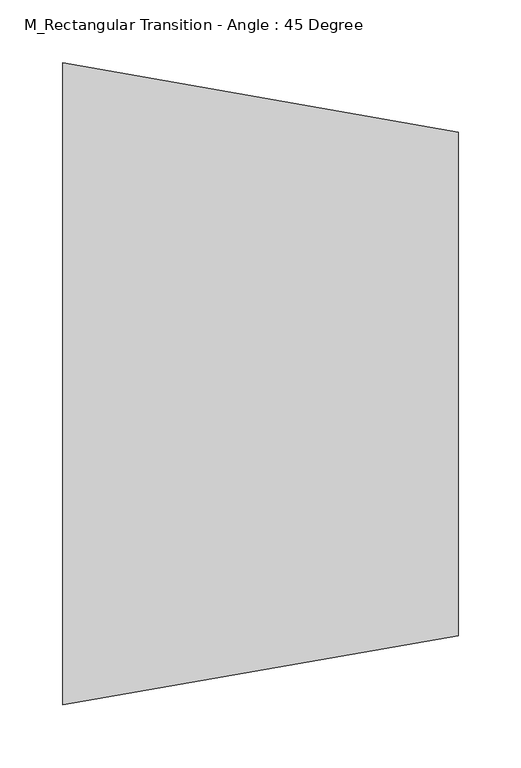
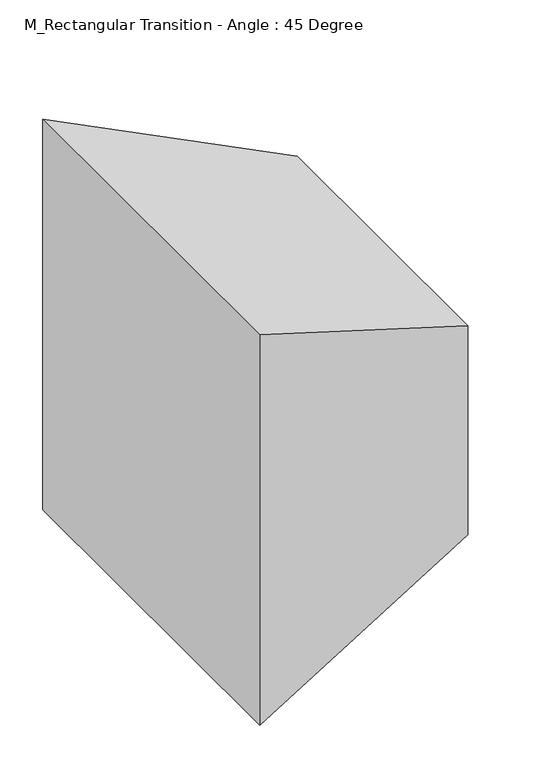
"""IFC4 building model written with IfcOpenShell, lengths in millimetres: duct fitting geometry, M_Rectangular Transition - Angle : 45 Degree."""

from ifc_helpers import new_model, si_unit, origin, place, context, project, spatial, faceted_brep, source, transform, mapped, element, save


def m_rectangular_transition_angle_45_degree_34abf768(model_context):
    return source(origin(), model_context, "Body", "Brep", [
        faceted_brep([(313.8477631, -200.0, 150.0), (313.8477631, -200.0, -150.0), (313.8477631, 200.0, -150.0), (313.8477631, 200.0, 150.0), (0.0, -255.0, 280.0), (0.0, 255.0, 280.0), (0.0, 255.0, -280.0), (0.0, -255.0, -280.0)], [[[0, 1, 2, 3]], [[4, 5, 6, 7]], [[4, 7, 1, 0]], [[7, 6, 2, 1]], [[6, 5, 3, 2]], [[5, 4, 0, 3]]]),
    ])


if __name__ == "__main__":
    model = new_model("IFC4")
    model_context = context("Model", 3, world=origin())
    ifc_project = project(units=[si_unit("LENGTHUNIT", "METRE", prefix="MILLI")], contexts=[model_context])
    site = spatial("IfcSite", under=ifc_project)
    building = spatial("IfcBuilding", under=site)
    placement = place(None, origin())
    m_rectangular_transition_angle_45_degree_shape = m_rectangular_transition_angle_45_degree_34abf768(model_context)
    element("IfcDuctFitting", 1, ObjectType="M_Rectangular Transition - Angle : 45 Degree", at=placement, inside=building, context=model_context, shape_type="MappedRepresentation", body=[
        mapped(m_rectangular_transition_angle_45_degree_shape, transform((0.0, 0.0, 0.0), x_axis=(1.0, 0.0, 0.0), y_axis=(0.0, 1.0, 0.0), z_axis=(0.0, 0.0, 1.0))),
    ])
    save(model, "model.ifc")
